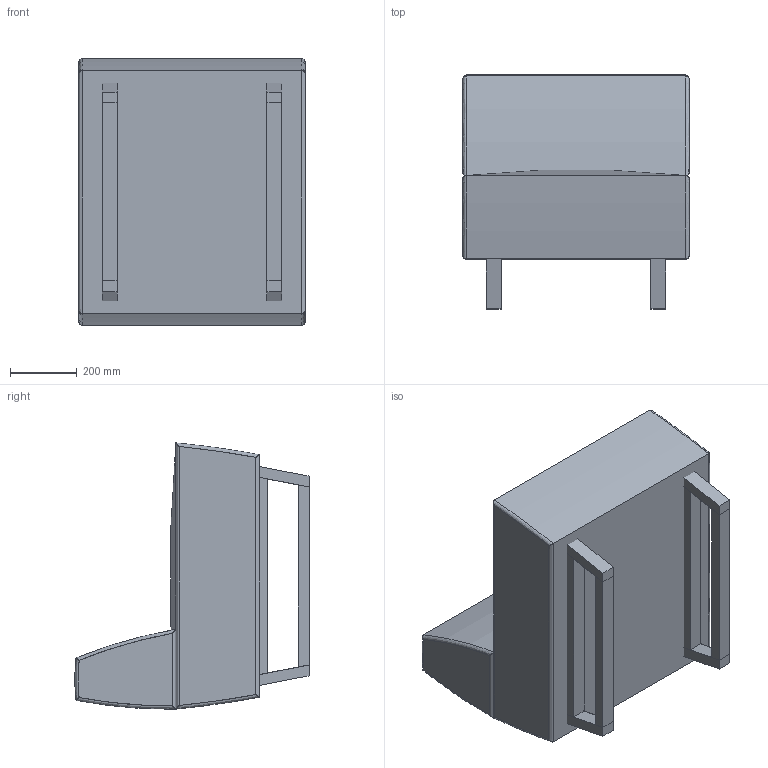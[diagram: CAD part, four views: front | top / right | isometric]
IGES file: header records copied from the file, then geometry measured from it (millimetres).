
Start section: SolidWorks IGES file using analytic representation for surfaces
Global section: file name: P:\3D CAD BLOCKS\us\SINGLE SEAT WITH BACK\us - SINGLE SEAT WITH BACK.IGS; native system: SolidWorks 2012; preprocessor: SolidWorks 2012; author: adam; date: 140220.190212; units: millimetre
Bounding box: 680 x 703.1 x 800.13 mm (x, y, z)
Surface area: 3448155 mm2 (no closed solid volume)
Topology: 0 solids, 0 shells, 134 faces, 1175 edges, 1175 vertices
Faces by surface type: bspline 106, revolution 28
